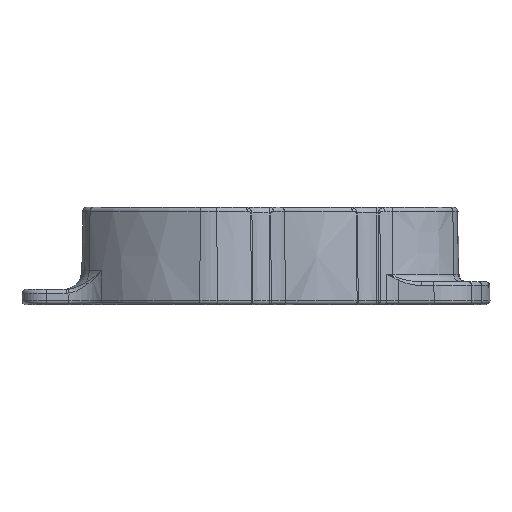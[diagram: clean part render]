
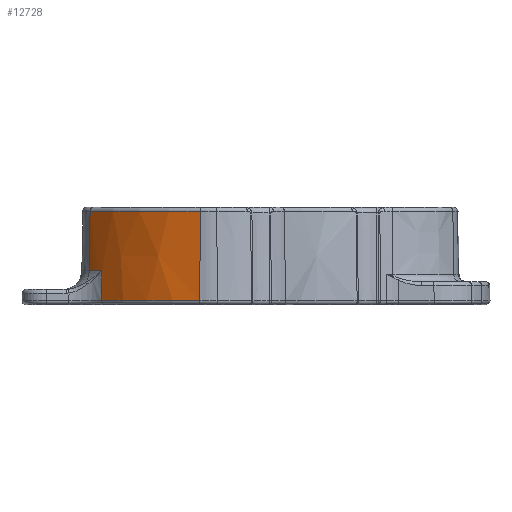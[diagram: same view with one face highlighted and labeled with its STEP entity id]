
A CAD part, left-side view. The second image highlights one B-rep face of the part: STEP entity #12728.
In plain terms, the highlighted conical face has half-angle 1 degrees and reference radius 13.6 mm.
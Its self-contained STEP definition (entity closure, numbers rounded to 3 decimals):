
#20 = CIRCLE ( 'NONE', #14015, 13.673 ) ;
#950 = CARTESIAN_POINT ( 'NONE',  ( -13.179, 3.376, 3.376 ) ) ;
#1860 = DIRECTION ( 'NONE',  ( -1., 0., 0. ) ) ;
#3167 = DIRECTION ( 'NONE',  ( -0.011, 0.014, -1. ) ) ;
#3711 = CIRCLE ( 'NONE', #16774, 13.604 ) ;
#4527 = DIRECTION ( 'NONE',  ( 0., 0., 1. ) ) ;
#5362 = DIRECTION ( 'NONE',  ( 0., 0., -1. ) ) ;
#5730 = CARTESIAN_POINT ( 'NONE',  ( -9.501, 9.848, -1.208 ) ) ;
#5846 = ORIENTED_EDGE ( 'NONE', *, *, #17618, .T. ) ;
#6031 = ORIENTED_EDGE ( 'NONE', *, *, #10387, .T. ) ;
#6887 = CARTESIAN_POINT ( 'NONE',  ( -9.49, 9.843, -0.55 ) ) ;
#6914 = VERTEX_POINT ( 'NONE', #10992 ) ;
#7251 = DIRECTION ( 'NONE',  ( 0., 0., 1. ) ) ;
#7381 = AXIS2_PLACEMENT_3D ( 'NONE', #7927, #5362, #18294 ) ;
#7927 = CARTESIAN_POINT ( 'NONE',  ( 0., 0., 3.622 ) ) ;
#8051 = VERTEX_POINT ( 'NONE', #9927 ) ;
#8169 = B_SPLINE_CURVE_WITH_KNOTS ( 'NONE', 3,
 ( #18753, #5730, #16574, #10698 ),
 .UNSPECIFIED., .F., .F.,
 ( 4, 4 ),
 ( 0., 0.002 ),
 .UNSPECIFIED. ) ;
#8806 = VECTOR ( 'NONE', #3167, 1000. ) ;
#9108 = CARTESIAN_POINT ( 'NONE',  ( 0., 0., 3.376 ) ) ;
#9927 = CARTESIAN_POINT ( 'NONE',  ( -8.536, 10.681, -0.55 ) ) ;
#10137 = EDGE_CURVE ( 'NONE', #16652, #6914, #3711, .T. ) ;
#10306 = CARTESIAN_POINT ( 'NONE',  ( -9.523, 9.859, -2.524 ) ) ;
#10387 = EDGE_CURVE ( 'NONE', #18357, #13023, #15230, .T. ) ;
#10406 = CARTESIAN_POINT ( 'NONE',  ( -13.175, 3.375, 3.622 ) ) ;
#10429 = CARTESIAN_POINT ( 'NONE',  ( -8.491, 10.624, 3.622 ) ) ;
#10678 = AXIS2_PLACEMENT_3D ( 'NONE', #16788, #7251, #13059 ) ;
#10698 = CARTESIAN_POINT ( 'NONE',  ( -9.523, 9.859, -2.524 ) ) ;
#10754 = DIRECTION ( 'NONE',  ( 1., 0., 0. ) ) ;
#10810 = FACE_OUTER_BOUND ( 'NONE', #12624, .T. ) ;
#10992 = CARTESIAN_POINT ( 'NONE',  ( -8.493, 10.627, 3.376 ) ) ;
#12624 = EDGE_LOOP ( 'NONE', ( #18114, #6031, #15603, #15139, #12959, #5846 ) ) ;
#12728 = ADVANCED_FACE ( 'NONE', ( #10810 ), #12866, .T. ) ;
#12866 = CONICAL_SURFACE ( 'NONE', #7381, 13.6, 0.017 ) ;
#12959 = ORIENTED_EDGE ( 'NONE', *, *, #18057, .T. ) ;
#13023 = VERTEX_POINT ( 'NONE', #15500 ) ;
#13059 = DIRECTION ( 'NONE',  ( -1., 0., 0. ) ) ;
#14015 = AXIS2_PLACEMENT_3D ( 'NONE', #14719, #4527, #1860 ) ;
#14719 = CARTESIAN_POINT ( 'NONE',  ( 0., 0., -0.55 ) ) ;
#15139 = ORIENTED_EDGE ( 'NONE', *, *, #10137, .T. ) ;
#15230 = CIRCLE ( 'NONE', #10678, 13.707 ) ;
#15500 = CARTESIAN_POINT ( 'NONE',  ( -13.278, 3.402, -2.524 ) ) ;
#15603 = ORIENTED_EDGE ( 'NONE', *, *, #16042, .F. ) ;
#16042 = EDGE_CURVE ( 'NONE', #16652, #13023, #17597, .T. ) ;
#16061 = EDGE_CURVE ( 'NONE', #18225, #18357, #8169, .T. ) ;
#16193 = DIRECTION ( 'NONE',  ( -0.017, 0.004, -1. ) ) ;
#16574 = CARTESIAN_POINT ( 'NONE',  ( -9.512, 9.854, -1.866 ) ) ;
#16652 = VERTEX_POINT ( 'NONE', #950 ) ;
#16774 = AXIS2_PLACEMENT_3D ( 'NONE', #9108, #17657, #10754 ) ;
#16788 = CARTESIAN_POINT ( 'NONE',  ( 0., 0., -2.524 ) ) ;
#17441 = LINE ( 'NONE', #10429, #8806 ) ;
#17597 = LINE ( 'NONE', #10406, #17890 ) ;
#17618 = EDGE_CURVE ( 'NONE', #8051, #18225, #20, .T. ) ;
#17657 = DIRECTION ( 'NONE',  ( 0., 0., -1. ) ) ;
#17890 = VECTOR ( 'NONE', #16193, 1000. ) ;
#18057 = EDGE_CURVE ( 'NONE', #6914, #8051, #17441, .T. ) ;
#18114 = ORIENTED_EDGE ( 'NONE', *, *, #16061, .T. ) ;
#18225 = VERTEX_POINT ( 'NONE', #6887 ) ;
#18294 = DIRECTION ( 'NONE',  ( 1., 0., 0. ) ) ;
#18357 = VERTEX_POINT ( 'NONE', #10306 ) ;
#18753 = CARTESIAN_POINT ( 'NONE',  ( -9.49, 9.843, -0.55 ) ) ;
